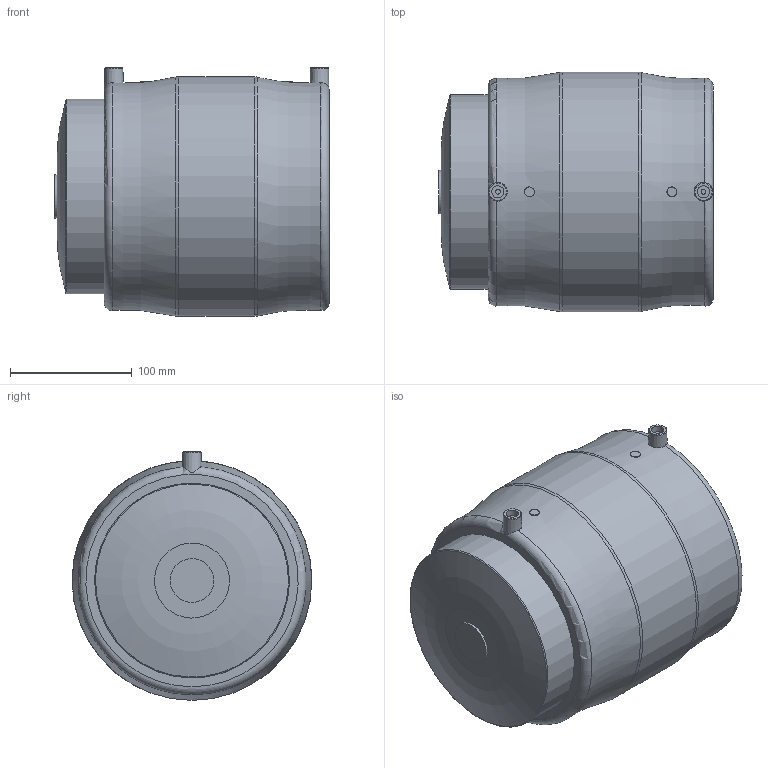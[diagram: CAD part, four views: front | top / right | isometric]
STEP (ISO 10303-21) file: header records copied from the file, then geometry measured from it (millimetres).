
FILE_DESCRIPTION(/* description */ ('Unknown'),/* implementation_level */ '2;1');
FILE_NAME(/* name */ 'CAEP160C',/* time_stamp */ '2021-02-11T10:23:12+01:00',/* author */ ('Unknown'),/* organization */ ('Unknown'),/* preprocessor_version */ 'ST-DEVELOPER v16.7',/* originating_system */ 'Solid Edge',/* authorisation */ 'Unknown');
FILE_SCHEMA (('AUTOMOTIVE_DESIGN {1 0 10303 214 3 1 1}'));
Length unit declared in the file: millimetre
Products named in the file (3): CAEP160C; MP160C; CAP160C
Assembly tree (2 placements, depth 2):
  CAEP160C
    MP160C
    CAP160C
Bounding box: 225.5 x 197 x 204.5 mm (x, y, z)
Volume: 2699562.4 mm3; surface area: 365256.2 mm2
Topology: 2 solids, 2 shells, 54 faces, 120 edges, 78 vertices
Faces by surface type: plane 24, cylinder 15, torus 12, cone 3
Full cylindrical faces by diameter (mm): 4 x2, 8 x2, 10 x2, 36 x1, 130.8 x1, 160 x2, 197 x1
Entity records: 1367 total; most frequent: CARTESIAN_POINT 269, DIRECTION 232, ORIENTED_EDGE 154, AXIS2_PLACEMENT_3D 104, EDGE_LOOP 92, FACE_BOUND 92, EDGE_CURVE 77, VERTEX_POINT 63
